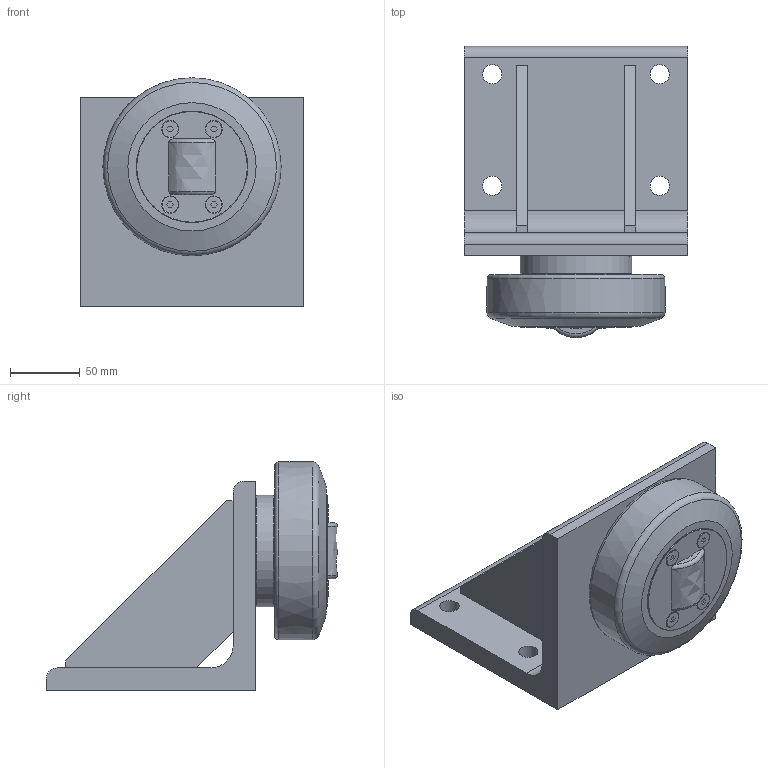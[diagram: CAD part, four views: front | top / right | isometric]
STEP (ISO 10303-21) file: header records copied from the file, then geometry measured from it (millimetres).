
FILE_DESCRIPTION(/* description */ ('-','CAx-IF Rec.Pracs.---Representation and Presentation of Product Manufacturing Information (PMI)---4.0---2014-10-13'),/* implementation_level */ '2;1');
FILE_NAME(/* name */ 'c:\temp\2151fa52-5668-4d9a-99ba-8aff591aef7f\164a3b24-5676-46a0-9654-e482d47702be.stp',/* time_stamp */ '2020-04-01T16:21:24+02:00',/* author */ ('-'),/* organization */ ('NTI CADcenter A/S'),/* preprocessor_version */ 'ST-DEVELOPER v18',/* originating_system */ 'Autodesk Inventor 2020',/* authorisation */ '-');
FILE_SCHEMA (('AP242_MANAGED_MODEL_BASED_3D_ENGINEERING_MIM_LF { 1 0 10303 442 1 1 4 }'));
Length unit declared in the file: millimetre
Products named in the file (1): PT 120.0365 BW1200_Kontur
Bounding box: 160 x 209 x 163.9 mm (x, y, z)
Volume: 1372449.9 mm3; surface area: 166629.2 mm2
Topology: 1 solids, 1 shells, 90 faces, 241 edges, 166 vertices
Faces by surface type: plane 60, cylinder 16, cone 8, torus 4, bspline 2
Full cylindrical faces by diameter (mm): 11.7 x4, 13.835 x4, 80 x3
Entity records: 2981 total; most frequent: CARTESIAN_POINT 584, DIRECTION 490, ORIENTED_EDGE 482, EDGE_CURVE 241, VERTEX_POINT 166, AXIS2_PLACEMENT_3D 166, LINE 158, VECTOR 158
